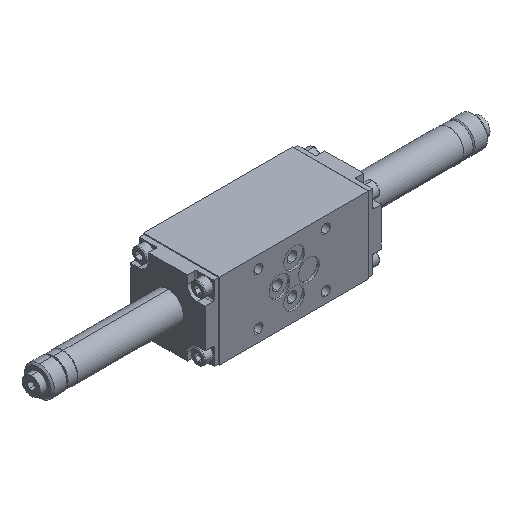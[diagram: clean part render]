
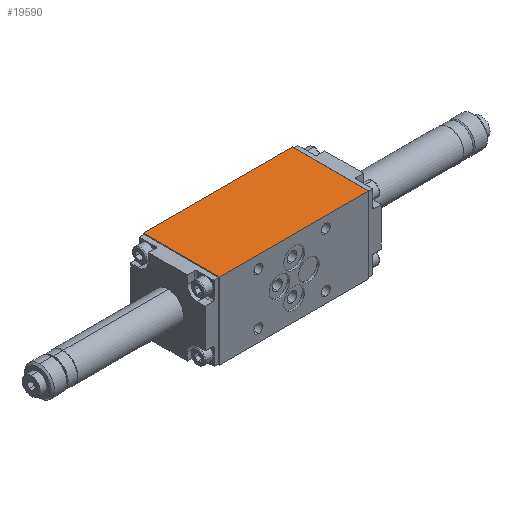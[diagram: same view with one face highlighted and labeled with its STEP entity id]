
A CAD part, isometric view. The second image highlights one B-rep face of the part: STEP entity #19590.
In plain terms, the highlighted planar face has unit normal (0, 0, 1).
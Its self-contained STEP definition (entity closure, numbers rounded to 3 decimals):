
#1630 = PLANE ( 'NONE',  #23708 ) ;
#7221 = LINE ( 'NONE', #44037, #27479 ) ;
#7643 = EDGE_LOOP ( 'NONE', ( #32902, #19009, #20578, #44362 ) ) ;
#9443 = CARTESIAN_POINT ( 'NONE',  ( 90., 23., 23. ) ) ;
#10934 = EDGE_CURVE ( 'NONE', #27756, #49133, #16673, .T. ) ;
#11900 = FACE_OUTER_BOUND ( 'NONE', #7643, .T. ) ;
#12028 = DIRECTION ( 'NONE',  ( 0., -1., 0. ) ) ;
#13581 = CARTESIAN_POINT ( 'NONE',  ( 90., -23., 23. ) ) ;
#14499 = LINE ( 'NONE', #9443, #43849 ) ;
#16673 = LINE ( 'NONE', #13581, #37006 ) ;
#19009 = ORIENTED_EDGE ( 'NONE', *, *, #10934, .F. ) ;
#19376 = EDGE_CURVE ( 'NONE', #41549, #27756, #37585, .T. ) ;
#19590 = ADVANCED_FACE ( 'NONE', ( #11900 ), #1630, .F. ) ;
#19638 = CARTESIAN_POINT ( 'NONE',  ( 90., -23., 23. ) ) ;
#20097 = CARTESIAN_POINT ( 'NONE',  ( 90., -23., 23. ) ) ;
#20578 = ORIENTED_EDGE ( 'NONE', *, *, #19376, .F. ) ;
#20802 = DIRECTION ( 'NONE',  ( 0., 0., -1. ) ) ;
#21026 = DIRECTION ( 'NONE',  ( -1., 0., 0. ) ) ;
#21049 = DIRECTION ( 'NONE',  ( 0., -1., 0. ) ) ;
#23708 = AXIS2_PLACEMENT_3D ( 'NONE', #43811, #20802, #47601 ) ;
#26165 = CARTESIAN_POINT ( 'NONE',  ( 90., 23., 23. ) ) ;
#27479 = VECTOR ( 'NONE', #21049, 1000. ) ;
#27756 = VERTEX_POINT ( 'NONE', #20097 ) ;
#28262 = DIRECTION ( 'NONE',  ( -1., 0., 0. ) ) ;
#28680 = CARTESIAN_POINT ( 'NONE',  ( 0., 23., 23. ) ) ;
#32902 = ORIENTED_EDGE ( 'NONE', *, *, #41315, .T. ) ;
#34392 = EDGE_CURVE ( 'NONE', #41549, #35110, #14499, .T. ) ;
#35110 = VERTEX_POINT ( 'NONE', #28680 ) ;
#37006 = VECTOR ( 'NONE', #21026, 1000. ) ;
#37585 = LINE ( 'NONE', #19638, #47821 ) ;
#41315 = EDGE_CURVE ( 'NONE', #35110, #49133, #7221, .T. ) ;
#41549 = VERTEX_POINT ( 'NONE', #26165 ) ;
#41652 = CARTESIAN_POINT ( 'NONE',  ( 0., -23., 23. ) ) ;
#43811 = CARTESIAN_POINT ( 'NONE',  ( 90., -23., 23. ) ) ;
#43849 = VECTOR ( 'NONE', #28262, 1000. ) ;
#44037 = CARTESIAN_POINT ( 'NONE',  ( 0., -23., 23. ) ) ;
#44362 = ORIENTED_EDGE ( 'NONE', *, *, #34392, .T. ) ;
#47601 = DIRECTION ( 'NONE',  ( -1., 0., 0. ) ) ;
#47821 = VECTOR ( 'NONE', #12028, 1000. ) ;
#49133 = VERTEX_POINT ( 'NONE', #41652 ) ;
